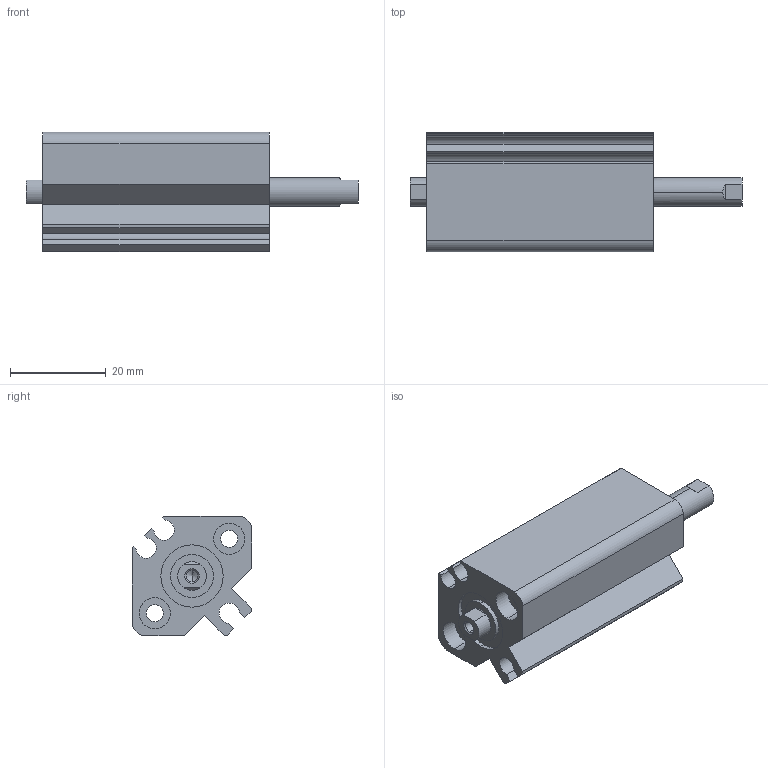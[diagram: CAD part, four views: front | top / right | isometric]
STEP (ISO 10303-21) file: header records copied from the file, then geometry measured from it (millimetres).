
FILE_DESCRIPTION (( 'STEP AP203' ), '1' );
FILE_NAME ('CCMB12-15F-P.STEP', '2020-08-05T11:01:21', ( '' ), ( '' ), 'SwSTEP 2.0', 'SolidWorks 2019', '' );
FILE_SCHEMA (( 'CONFIG_CONTROL_DESIGN' ));
Length unit declared in the file: millimetre
Products named in the file (1): CCMB12-15F-P
Bounding box: 69.4 x 25 x 25 mm (x, y, z)
Volume: 21590.5 mm3; surface area: 11656.2 mm2
Topology: 2 solids, 2 shells, 109 faces, 261 edges, 168 vertices
Faces by surface type: cylinder 50, plane 47, cone 12
Entity records: 3246 total; most frequent: DIRECTION 577, CARTESIAN_POINT 559, ORIENTED_EDGE 514, EDGE_CURVE 257, AXIS2_PLACEMENT_3D 218, VERTEX_POINT 168, VECTOR 141, LINE 141
